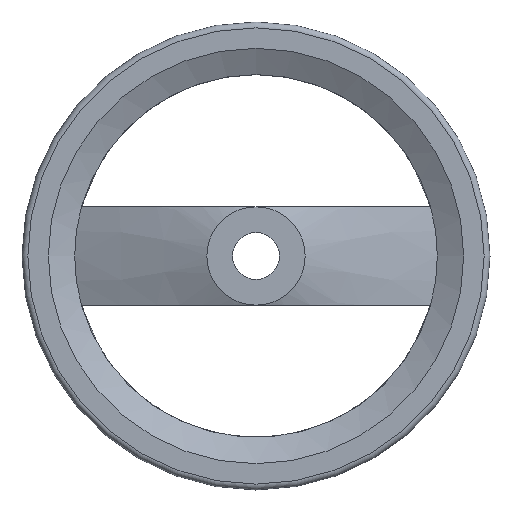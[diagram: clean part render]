
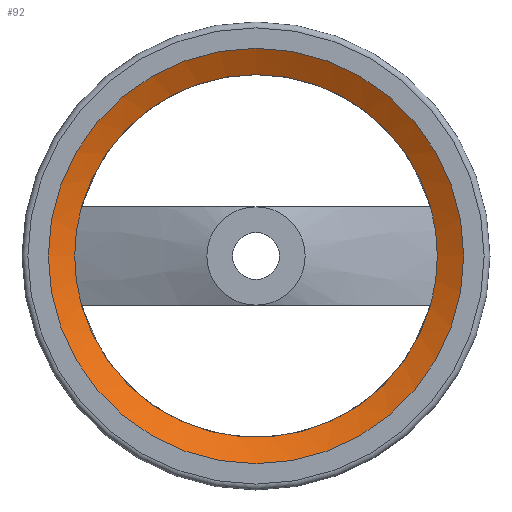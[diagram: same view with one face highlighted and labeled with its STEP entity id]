
A CAD part, left-side view. The second image highlights one B-rep face of the part: STEP entity #92.
In plain terms, the highlighted conical face has half-angle 62.129 degrees and reference radius 77.5 mm.
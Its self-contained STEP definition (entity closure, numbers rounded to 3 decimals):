
#92 = ADVANCED_FACE( '', ( #141, #142 ), #143, .F. );
#141 = FACE_OUTER_BOUND( '', #192, .T. );
#142 = FACE_BOUND( '', #193, .T. );
#143 = CONICAL_SURFACE( '', #194, 77.5, 1.084 );
#192 = EDGE_LOOP( '', ( #305 ) );
#193 = EDGE_LOOP( '', ( #306, #307, #308, #309 ) );
#194 = AXIS2_PLACEMENT_3D( '', #310, #311, #312 );
#305 = ORIENTED_EDGE( '', *, *, #344, .T. );
#306 = ORIENTED_EDGE( '', *, *, #332, .F. );
#307 = ORIENTED_EDGE( '', *, *, #350, .T. );
#308 = ORIENTED_EDGE( '', *, *, #338, .F. );
#309 = ORIENTED_EDGE( '', *, *, #349, .T. );
#310 = CARTESIAN_POINT( '', ( 30.449, 0., 0. ) );
#311 = DIRECTION( '', ( -1., 0., 0. ) );
#312 = DIRECTION( '', ( 0., 0., 1. ) );
#332 = EDGE_CURVE( '', #360, #366, #377, .T. );
#338 = EDGE_CURVE( '', #372, #354, #386, .T. );
#344 = EDGE_CURVE( '', #395, #395, #396, .T. );
#349 = EDGE_CURVE( '', #372, #366, #404, .F. );
#350 = EDGE_CURVE( '', #360, #354, #405, .F. );
#354 = VERTEX_POINT( '', #410 );
#360 = VERTEX_POINT( '', #453 );
#366 = VERTEX_POINT( '', #502 );
#372 = VERTEX_POINT( '', #545 );
#377 = CIRCLE( '', #593, 77.5 );
#386 = CIRCLE( '', #602, 77.5 );
#395 = VERTEX_POINT( '', #611 );
#396 = CIRCLE( '', #612, 88.75 );
#404 = CIRCLE( '', #620, 77.5 );
#405 = CIRCLE( '', #621, 77.5 );
#410 = CARTESIAN_POINT( '', ( 30.449, 74.601, -21. ) );
#453 = CARTESIAN_POINT( '', ( 30.449, -74.601, -21. ) );
#502 = CARTESIAN_POINT( '', ( 30.449, -74.601, 21. ) );
#545 = CARTESIAN_POINT( '', ( 30.449, 74.601, 21. ) );
#593 = AXIS2_PLACEMENT_3D( '', #629, #630, #631 );
#602 = AXIS2_PLACEMENT_3D( '', #647, #648, #649 );
#611 = CARTESIAN_POINT( '', ( 24.5, 0., 88.75 ) );
#612 = AXIS2_PLACEMENT_3D( '', #665, #666, #667 );
#620 = AXIS2_PLACEMENT_3D( '', #680, #681, #682 );
#621 = AXIS2_PLACEMENT_3D( '', #683, #684, #685 );
#629 = CARTESIAN_POINT( '', ( 30.449, 0., 0. ) );
#630 = DIRECTION( '', ( -1., 0., 0. ) );
#631 = DIRECTION( '', ( 0., 0., 1. ) );
#647 = CARTESIAN_POINT( '', ( 30.449, 0., 0. ) );
#648 = DIRECTION( '', ( -1., 0., 0. ) );
#649 = DIRECTION( '', ( 0., 0., 1. ) );
#665 = CARTESIAN_POINT( '', ( 24.5, 0., 0. ) );
#666 = DIRECTION( '', ( -1., 0., 0. ) );
#667 = DIRECTION( '', ( 0., 0., 1. ) );
#680 = CARTESIAN_POINT( '', ( 30.449, 0., 0. ) );
#681 = DIRECTION( '', ( -1., 0., 0. ) );
#682 = DIRECTION( '', ( 0., 0., 1. ) );
#683 = CARTESIAN_POINT( '', ( 30.449, 0., 0. ) );
#684 = DIRECTION( '', ( -1., 0., 0. ) );
#685 = DIRECTION( '', ( 0., 0., 1. ) );
